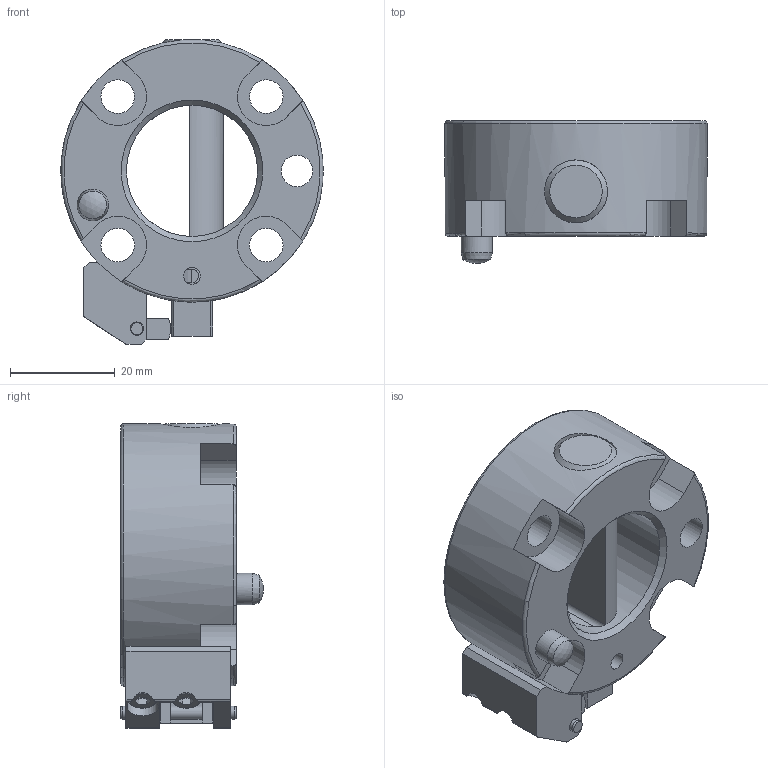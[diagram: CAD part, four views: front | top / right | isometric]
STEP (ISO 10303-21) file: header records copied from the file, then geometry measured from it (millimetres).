
FILE_DESCRIPTION((''),'2;1');
FILE_NAME('T:\CAD\Standard\Daten\3D-Datenbank\SWS\SWS050\step-Daten\G-SWS050-2O-VS2.stp','2011-08-18T13:57:45',('Yvonne'),(''),'Autodesk Inventor 2011','Autodesk Inventor 2011','');
FILE_SCHEMA(('AUTOMOTIVE_DESIGN { 1 0 10303 214 1 1 1 1 }'));
Length unit declared in the file: millimetre
Products named in the file (1): Bauteil7
Bounding box: 50 x 27.17 x 58.05 mm (x, y, z)
Volume: 30697.6 mm3; surface area: 13292.3 mm2
Topology: 2 solids, 3 shells, 173 faces, 459 edges, 299 vertices
Faces by surface type: plane 83, cylinder 63, cone 16, torus 9, sphere 2
Full cylindrical faces by diameter (mm): 2.459 x2, 2.5 x3, 2.52 x2, 3 x2, 3.2 x2, 3.242 x2, 5.5 x2, 5.8 x1, 6 x4, 6.4 x4, 11 x1, 12 x3, 25 x1, 50 x1
Entity records: 5539 total; most frequent: CARTESIAN_POINT 1447, DIRECTION 788, ORIENTED_EDGE 740, EDGE_CURVE 370, AXIS2_PLACEMENT_3D 304, VERTEX_POINT 268, EDGE_LOOP 262, VECTOR 180
